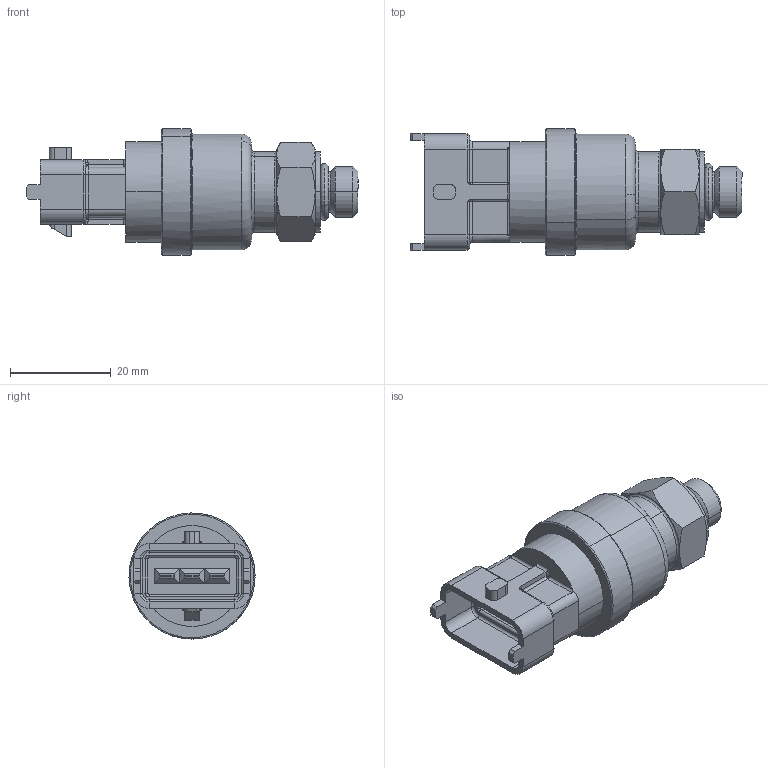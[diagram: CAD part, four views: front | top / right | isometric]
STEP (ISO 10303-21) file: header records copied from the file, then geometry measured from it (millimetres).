
FILE_DESCRIPTION(('CATIA V5 STEP Exchange'),'2;1');
FILE_NAME('\\bosch.com\dfsrb\DfsDE\DIV\BEG\MSD\Gruppen\MSDP\01_Austausch\!Limitierte Beschäftigte\Praktikanten\HnA\3D Modelle Katalog\Neu\Sensoren\Druck in Flüssigkeiten\PSS-250R.stp','2014-01-17T07:59:03+00:00',('none'),('none'),'CATIA Version 5 Release 19 SP 9 (IN-10)','CATIA V5 STEP AP214','none');
FILE_SCHEMA(('AUTOMOTIVE_DESIGN { 1 0 10303 214 1 1 1 1 }'));
Length unit declared in the file: millimetre
Products named in the file (1): PSS-250R
Bounding box: 65.8 x 24.99 x 24.99 mm (x, y, z)
Volume: 15206.9 mm3; surface area: 6263.4 mm2
Topology: 1 solids, 1 shells, 428 faces, 1040 edges, 622 vertices
Faces by surface type: plane 192, cylinder 152, torus 46, cone 22, sphere 16
Entity records: 14729 total; most frequent: CARTESIAN_POINT 2407, ORIENTED_EDGE 2048, DIRECTION 1606, EDGE_CURVE 1024, AXIS2_PLACEMENT_3D 726, VERTEX_POINT 622, VECTOR 556, LINE 556
